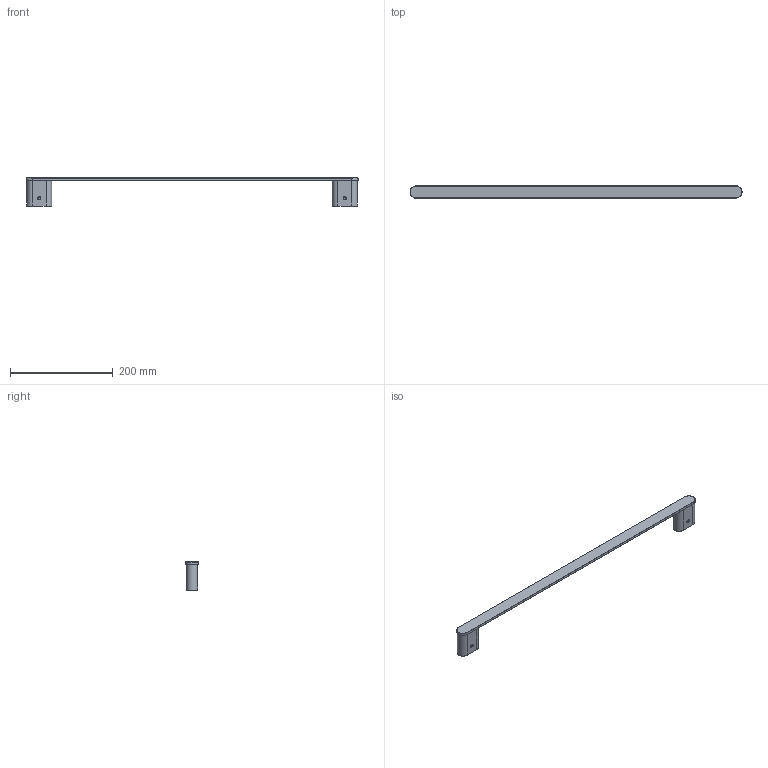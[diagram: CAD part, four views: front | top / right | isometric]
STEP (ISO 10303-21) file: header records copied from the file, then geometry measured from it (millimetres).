
FILE_DESCRIPTION(/* description */ (''),/* implementation_level */ '2;1');
FILE_NAME(/* name */ 'c:\worker\convert-fusion-r09\tmp\job-1\3\output\files\0d6f5f0f-146c-4af6-9130-e6407b25cc8a\276b7424-8a82-4b80-9f51-39b2006946fd.stp',/* time_stamp */ '2020-01-08T08:08:43+00:00',/* author */ (''),/* organization */ (''),/* preprocessor_version */ 'ST-DEVELOPER v18',/* originating_system */ 'Autodesk Translation Framework v8.12.0.6',/* authorisation */ '');
FILE_SCHEMA (('AUTOMOTIVE_DESIGN { 1 0 10303 214 3 1 1 }'));
Length unit declared in the file: millimetre
Products named in the file (1): !MI20216
Bounding box: 645 x 24 x 55 mm (x, y, z)
Volume: 173185.2 mm3; surface area: 53009.9 mm2
Topology: 3 solids, 3 shells, 92 faces, 196 edges, 112 vertices
Faces by surface type: cylinder 42, bspline 28, plane 22
Entity records: 2935 total; most frequent: CARTESIAN_POINT 1065, ORIENTED_EDGE 392, DIRECTION 382, EDGE_CURVE 196, AXIS2_PLACEMENT_3D 149, VERTEX_POINT 112, EDGE_LOOP 94, FACE_OUTER_BOUND 92
